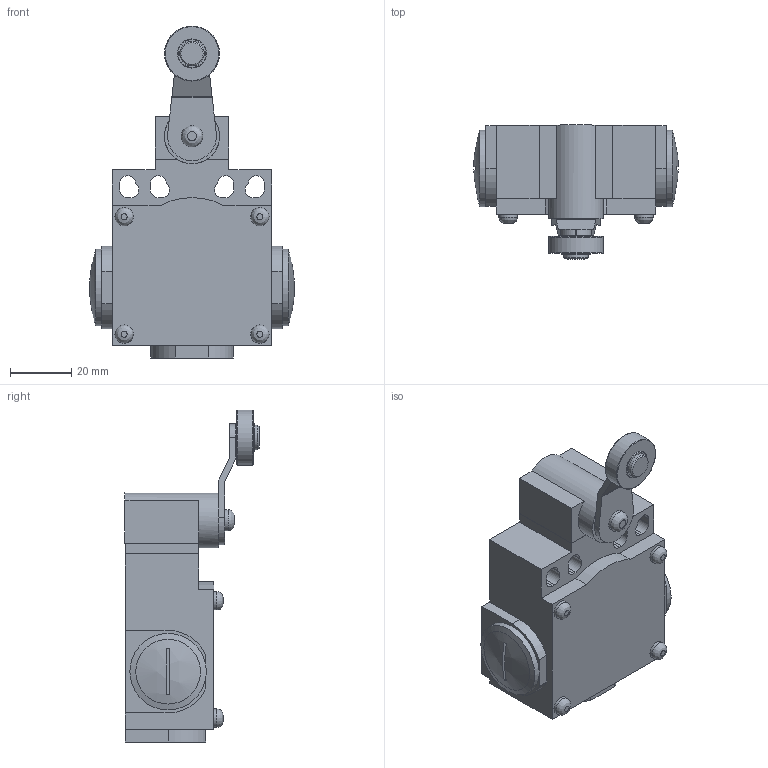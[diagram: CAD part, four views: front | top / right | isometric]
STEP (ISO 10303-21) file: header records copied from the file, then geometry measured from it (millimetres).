
FILE_DESCRIPTION((''),'2;1');
FILE_NAME('D:\Documenti_D\Corrispondenza\Comepi\Catalogo da fare\Modelli Nov 2011\DM e CM\STEP\DM1-F41.iam.step','2011-11-17T12:00:57',(''),(''),'Autodesk Inventor 2010','Autodesk Inventor 2010','');
FILE_SCHEMA(('AUTOMOTIVE_DESIGN { 1 0 10303 214 1 1 1 1 }'));
Length unit declared in the file: millimetre
Products named in the file (7): DM1-F41; T41; T41_1; T41_2; DM1; tappo
Assembly tree (7 placements, depth 3):
  DM1-F41
    T41
      T41_1
      T41_2
    DM1
      DM1
      tappo  x2
Bounding box: 66.83 x 43.85 x 108.57 mm (x, y, z)
Volume: 81808.4 mm3; surface area: 26510.6 mm2
Topology: 5 solids, 5 shells, 132 faces, 317 edges, 207 vertices
Faces by surface type: plane 75, cylinder 40, cone 6, bspline 5, torus 4, sphere 2
Full cylindrical faces by diameter (mm): 6 x6, 7 x1, 8 x1, 18 x2, 20.4 x2, 25 x2
Entity records: 4009 total; most frequent: CARTESIAN_POINT 894, DIRECTION 630, ORIENTED_EDGE 536, EDGE_CURVE 268, AXIS2_PLACEMENT_3D 232, VERTEX_POINT 191, EDGE_LOOP 173, VECTOR 166
